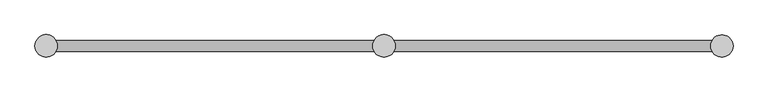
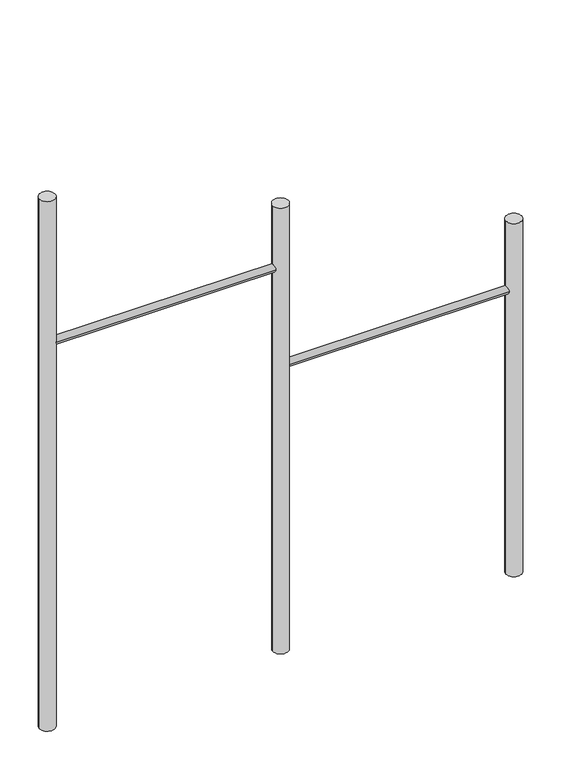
"""IFC4 building model written with IfcOpenShell, lengths in millimetres: furniture geometry, Sportgerät : Sportgerät."""

from ifc_helpers import new_model, si_unit, point, frame, frame_2d, origin, origin_with_axes, origin_2d, place, context, project, spatial, circle_curve, trimmed, segment, composite_curve, outline, extrude, source, transform, mapped, element, save


def furniture_b44a5947(model_context):
    return source(origin(), model_context, "Body", "SweptSolid", [
        extrude(outline(composite_curve([segment(trimmed(circle_curve(frame_2d((0.0, 966.2220595)), 12.5), [point((-12.5, 966.2220595))], [point((12.5, 966.2220595))], False, "CARTESIAN"), True, "CONTINUOUS"), segment(trimmed(circle_curve(frame_2d((0.0, 966.2220595)), 12.5), [point((12.5, 966.2220595))], [point((-12.5, 966.2220595))], False, "CARTESIAN"), True, "CONTINUOUS")], self_intersect=False)), frame((756.4156389, 0.0, 0.0), z_axis=(1.0, 0.0, 0.0), x_axis=(0.0, 1.0, 0.0)), (0.0, 0.0, 1.0), 750.0),
        extrude(outline(composite_curve([segment(trimmed(circle_curve(frame_2d((0.0, 1303.0)), 12.5), [point((-12.5, 1303.0))], [point((12.5, 1303.0))], False, "CARTESIAN"), True, "CONTINUOUS"), segment(trimmed(circle_curve(frame_2d((0.0, 1303.0)), 12.5), [point((12.5, 1303.0))], [point((-12.5, 1303.0))], False, "CARTESIAN"), True, "CONTINUOUS")], self_intersect=False)), frame((0.0, 0.0, 0.0), z_axis=(1.0, 0.0, 0.0), x_axis=(0.0, 1.0, 0.0)), (0.0, 0.0, 1.0), 750.0),
        extrude(outline(composite_curve([segment(trimmed(circle_curve(frame_2d((750.0, 0.0)), 25.0), [point((725.0, 0.0))], [point((775.0, 0.0))], False, "CARTESIAN"), True, "CONTINUOUS"), segment(trimmed(circle_curve(frame_2d((750.0, 0.0)), 25.0), [point((775.0, 0.0))], [point((725.0, 0.0))], False, "CARTESIAN"), True, "CONTINUOUS")], self_intersect=False)), origin_with_axes(), (0.0, 0.0, 1.0), 1515.0),
        extrude(outline(composite_curve([segment(trimmed(circle_curve(frame_2d((1500.0, 0.0)), 25.0), [point((1475.0, 0.0))], [point((1525.0, 0.0))], False, "CARTESIAN"), True, "CONTINUOUS"), segment(trimmed(circle_curve(frame_2d((1500.0, 0.0)), 25.0), [point((1525.0, 0.0))], [point((1475.0, 0.0))], False, "CARTESIAN"), True, "CONTINUOUS")], self_intersect=False)), origin_with_axes(), (0.0, 0.0, 1.0), 1200.0),
        extrude(outline(composite_curve([segment(trimmed(circle_curve(origin_2d(), 25.0), [point((-25.0, 0.0))], [point((25.0, 0.0))], False, "CARTESIAN"), True, "CONTINUOUS"), segment(trimmed(circle_curve(origin_2d(), 25.0), [point((25.0, 0.0))], [point((-25.0, 0.0))], False, "CARTESIAN"), True, "CONTINUOUS")], self_intersect=False)), origin_with_axes(), (0.0, 0.0, 1.0), 1800.0),
    ])


if __name__ == "__main__":
    model = new_model("IFC4")
    model_context = context("Model", 3, world=origin())
    ifc_project = project(units=[si_unit("LENGTHUNIT", "METRE", prefix="MILLI")], contexts=[model_context])
    site = spatial("IfcSite", under=ifc_project)
    building = spatial("IfcBuilding", under=site)
    placement = place(None, origin())
    furniture_shape = furniture_b44a5947(model_context)
    element("IfcFurniture", 1, ObjectType="Sportgerät : Sportgerät", at=placement, inside=building, context=model_context, shape_type="MappedRepresentation", body=[
        mapped(furniture_shape, transform((0.0, 0.0, 0.0), x_axis=(1.0, 0.0, 0.0), y_axis=(0.0, 1.0, 0.0), z_axis=(0.0, 0.0, 1.0))),
    ])
    save(model, "model.ifc")
